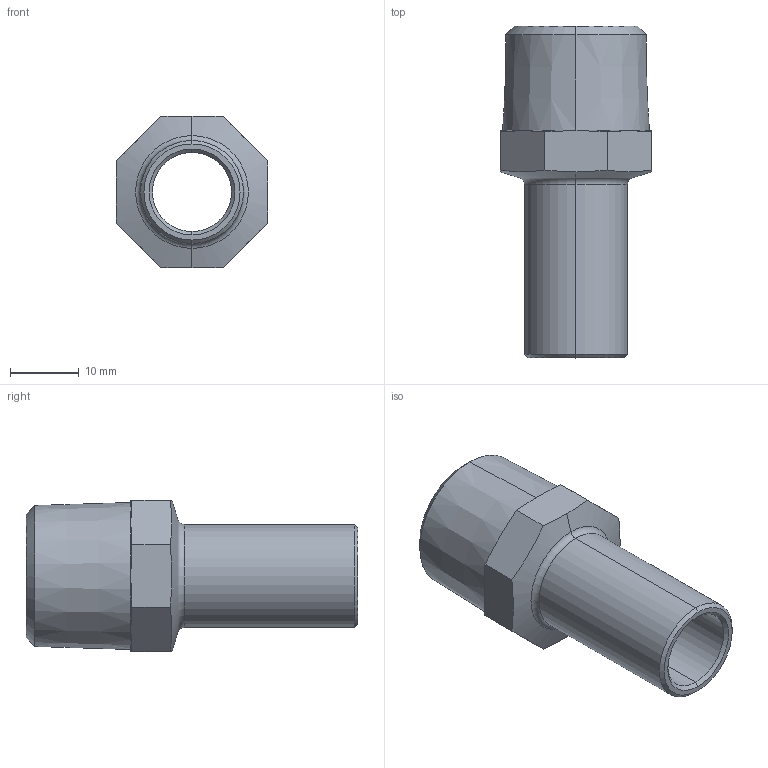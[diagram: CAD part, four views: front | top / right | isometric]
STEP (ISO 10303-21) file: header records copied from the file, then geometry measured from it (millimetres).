
FILE_DESCRIPTION (( 'STEP AP203' ), '1' );
FILE_NAME ('SP4280G Ø15 1-2.STEP', '2017-04-26T09:04:17', ( '' ), ( '' ), 'SwSTEP 2.0', 'SolidWorks 2016', '' );
FILE_SCHEMA (( 'CONFIG_CONTROL_DESIGN' ));
Length unit declared in the file: millimetre
Products named in the file (1): SP4280G Ø15 1-2
Bounding box: 22 x 48.3 x 22 mm (x, y, z)
Volume: 5713.8 mm3; surface area: 5092.9 mm2
Topology: 1 solids, 1 shells, 34 faces, 78 edges, 46 vertices
Faces by surface type: cone 16, plane 10, cylinder 6, torus 2
Entity records: 1071 total; most frequent: CARTESIAN_POINT 243, DIRECTION 156, ORIENTED_EDGE 156, EDGE_CURVE 78, AXIS2_PLACEMENT_3D 63, VERTEX_POINT 46, EDGE_LOOP 36, ADVANCED_FACE 34
